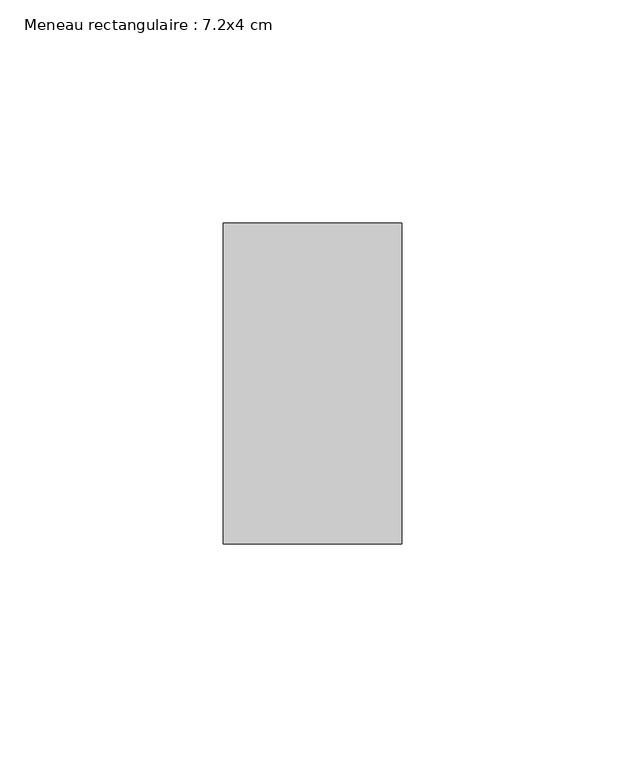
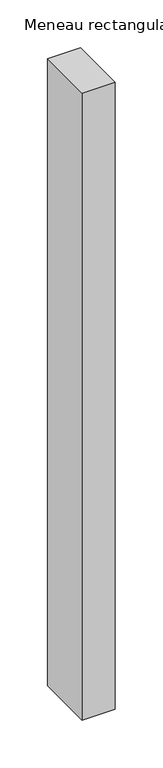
"""IFC4 building model written with IfcOpenShell, lengths in millimetres: member geometry, Meneau rectangulaire : 7.2x4 cm."""

import ifcopenshell
import ifcopenshell.guid

model = None  # the IFC model being written
_history = None  # IfcOwnerHistory: only IFC2X3 demands one
_inside = {}  # id of a spatial element -> (the spatial element, [elements in it])
_under = {}  # id of a project, library or spatial element -> (it, [spatial elements below it])
_declared = {}  # id of a project -> (the project, [libraries it declares])
_typed = {}  # id of a type object -> (the type object, [elements of that type])
_made_of = {}  # id of a material, layer set ... -> (it, [elements and type objects made of it])


def new_model(schema):
    """Start an empty IFC model of exactly this schema.

    Asked for "IFC4X3", IfcOpenShell would pick the latest addendum, in which some entities
    have other attributes; the version numbers below select the first issue.
    IFC2X3 requires an IfcOwnerHistory on every rooted entity: one is made here for all.
    """
    global model, _history
    if schema == "IFC4X3":
        model = ifcopenshell.file(schema_version=(4, 3, 0, 0))
    else:
        model = ifcopenshell.file(schema=schema)
    _inside.clear()
    _under.clear()
    _declared.clear()
    _typed.clear()
    _made_of.clear()
    _history = None
    if model.schema == "IFC2X3":
        org = make("IfcOrganization", Name="unknown")
        user = make(
            "IfcPersonAndOrganization",
            ThePerson=make("IfcPerson", FamilyName="unknown"),
            TheOrganization=org,
        )
        app = make(
            "IfcApplication",
            ApplicationDeveloper=org,
            Version="unknown",
            ApplicationFullName="unknown",
            ApplicationIdentifier="unknown",
        )
        _history = make(
            "IfcOwnerHistory",
            OwningUser=user,
            OwningApplication=app,
            ChangeAction="ADDED",
            CreationDate=0,
        )
    return model


def make(cls, **values):
    """One entity of the class cls with the attributes given. An attribute that is None is left unset."""
    return model.create_entity(
        cls, **{name: value for name, value in values.items() if value is not None}
    )


def rooted(cls, **values):
    """An entity with a GlobalId (a new one), such as an element, a storey or a relation."""
    return make(cls, GlobalId=ifcopenshell.guid.new(), OwnerHistory=_history, **values)


def si_unit(unit_type, name, prefix=None):
    """IfcSIUnit, for example si_unit("LENGTHUNIT", "METRE", prefix="MILLI")."""
    return make("IfcSIUnit", UnitType=unit_type, Prefix=prefix, Name=name)


def assignment(units):
    """IfcUnitAssignment: the units of a project."""
    return None if units is None else make("IfcUnitAssignment", Units=units)


def point(xyz):
    """IfcCartesianPoint."""
    return None if xyz is None else make("IfcCartesianPoint", Coordinates=xyz)


def direction(xyz):
    """IfcDirection."""
    return None if xyz is None else make("IfcDirection", DirectionRatios=xyz)


def frame(location, z_axis=None, x_axis=None):
    """IfcAxis2Placement3D, a coordinate frame: its origin and axes. An axis left out is left unset."""
    return make(
        "IfcAxis2Placement3D",
        Location=point(location),
        Axis=direction(z_axis),
        RefDirection=direction(x_axis),
    )


def origin():
    """The frame at (0, 0, 0) with its axes left unset."""
    return frame((0.0, 0.0, 0.0))


def place(relative_to, where):
    """IfcLocalPlacement: puts the frame where relative to a parent placement (None: the world)."""
    return make(
        "IfcLocalPlacement", PlacementRelTo=relative_to, RelativePlacement=where
    )


def context(
    kind, dimensions, precision=None, world=None, true_north=None, identifier=None
):
    """IfcGeometricRepresentationContext, for example the 3D "Model" context."""
    return make(
        "IfcGeometricRepresentationContext",
        ContextIdentifier=identifier,
        ContextType=kind,
        CoordinateSpaceDimension=dimensions,
        Precision=precision,
        WorldCoordinateSystem=world,
        TrueNorth=true_north,
    )


def project(units=None, contexts=None):
    """IfcProject with its units and contexts."""
    return rooted(
        "IfcProject",
        Name="project",
        RepresentationContexts=contexts,
        UnitsInContext=assignment(units),
    )


def spatial(cls, under=None, at=None, **own):
    """A site, building, storey or space (cls), placed at a placement, below another one or the project."""
    s = rooted(cls, ObjectPlacement=at, **own)
    if under is not None:
        _under.setdefault(under.id(), (under, []))[1].append(s)
    return s


def polyline(points):
    """IfcPolyline through the points."""
    return make("IfcPolyline", Points=[point(p) for p in points])


def outline(outer, holes=None, kind="AREA"):
    """IfcArbitraryClosedProfileDef: a profile drawn as a closed curve; with holes, ...WithVoids."""
    if holes is None:
        return make("IfcArbitraryClosedProfileDef", ProfileType=kind, OuterCurve=outer)
    return make(
        "IfcArbitraryProfileDefWithVoids",
        ProfileType=kind,
        OuterCurve=outer,
        InnerCurves=holes,
    )


def extrude(swept, where, along, depth):
    """IfcExtrudedAreaSolid: the profile swept, set in the frame where, extruded along a direction by depth."""
    return make(
        "IfcExtrudedAreaSolid",
        SweptArea=swept,
        Position=where,
        ExtrudedDirection=direction(along),
        Depth=depth,
    )


def shape(context_of_items, identifier, shape_type, items):
    """IfcShapeRepresentation: the items that make up one representation, for example the "Body"."""
    return make(
        "IfcShapeRepresentation",
        ContextOfItems=context_of_items,
        RepresentationIdentifier=identifier,
        RepresentationType=shape_type,
        Items=items,
    )


def source(mapping_origin, context_of_items, identifier, shape_type, items):
    """IfcRepresentationMap: a shape defined once, which mapped items show again and again."""
    return make(
        "IfcRepresentationMap",
        MappingOrigin=mapping_origin,
        MappedRepresentation=shape(context_of_items, identifier, shape_type, items),
    )


def transform(
    local_origin,
    x_axis=None,
    y_axis=None,
    z_axis=None,
    scale=None,
    scale2=None,
    scale3=None,
    uniform=True,
):
    """IfcCartesianTransformationOperator3D, or its non-uniform kind. x_axis, y_axis, z_axis: its Axis1, 2, 3."""
    if uniform:
        return make(
            "IfcCartesianTransformationOperator3D",
            Axis1=direction(x_axis),
            Axis2=direction(y_axis),
            LocalOrigin=point(local_origin),
            Scale=scale,
            Axis3=direction(z_axis),
        )
    return make(
        "IfcCartesianTransformationOperator3DnonUniform",
        Axis1=direction(x_axis),
        Axis2=direction(y_axis),
        LocalOrigin=point(local_origin),
        Scale=scale,
        Axis3=direction(z_axis),
        Scale2=scale2,
        Scale3=scale3,
    )


def mapped(mapping_source, mapping_target):
    """IfcMappedItem: shows the shape of a source again, moved by a transform."""
    return make(
        "IfcMappedItem", MappingSource=mapping_source, MappingTarget=mapping_target
    )


def made_of(thing, what):
    """Note that an element or type object is made of a material, layer set ...; save() writes the relation."""
    if what is not None:
        _made_of.setdefault(what.id(), (what, []))[1].append(thing)
    return thing


def element(
    cls,
    number,
    at=None,
    inside=None,
    cuts=None,
    type_object=None,
    material=None,
    context=None,
    identifier="Body",
    shape_type=None,
    held_by="IfcProductDefinitionShape",
    body=None,
    shapes=None,
    **own,
):
    """One element of the class cls, such as IfcWall. Its Tag is "e" and its number.

    at: its placement. inside: the storey or other place that contains it. cuts: it is an
    opening in that element (IfcRelVoidsElement). A single representation is given by context,
    identifier, shape_type and body (its items); several are given by shapes. held_by: the class
    of the entity that holds the representations. save() writes the other relations.
    """
    e = rooted(cls, Tag="e%d" % number, ObjectPlacement=at, **own)
    if body is not None:
        shapes = [shape(context, identifier, shape_type, body)]
    if shapes is not None:
        e.Representation = make(held_by, Representations=shapes)
    if inside is not None:
        _inside.setdefault(inside.id(), (inside, []))[1].append(e)
    if cuts is not None:
        rooted(
            "IfcRelVoidsElement", RelatingBuildingElement=cuts, RelatedOpeningElement=e
        )
    if type_object is not None:
        _typed.setdefault(type_object.id(), (type_object, []))[1].append(e)
    return made_of(e, material)


def aggregate(whole, parts):
    """IfcRelAggregates: a whole, such as a stair, and the parts it consists of."""
    return rooted("IfcRelAggregates", RelatingObject=whole, RelatedObjects=parts)


def save(model, path):
    """Write the relations noted so far, then the file.

    IfcRelAggregates (storeys below a building ...), IfcRelContainedInSpatialStructure (elements
    in a storey), IfcRelDefinesByType, IfcRelAssociatesMaterial and IfcRelDeclares: one each for
    every whole, place, type object, material and project.
    """
    for whole, parts in _under.values():
        aggregate(whole, parts)
    for where, things in _inside.values():
        rooted(
            "IfcRelContainedInSpatialStructure",
            RelatedElements=things,
            RelatingStructure=where,
        )
    for kind, things in _typed.values():
        rooted("IfcRelDefinesByType", RelatedObjects=things, RelatingType=kind)
    for what, things in _made_of.values():
        rooted("IfcRelAssociatesMaterial", RelatedObjects=things, RelatingMaterial=what)
    for by, libraries in _declared.values():
        rooted("IfcRelDeclares", RelatingContext=by, RelatedDefinitions=libraries)
    model.write(path)


def meneau_rectangulaire_7_2x4_cm_f788d2fa(model_context):
    return source(origin(), model_context, "Body", "SweptSolid", [
        extrude(outline(polyline([(20.0, 36.0), (20.0, -36.0), (-20.0, -36.0), (-20.0, 36.0), (20.0, 36.0)])), frame((0.0, 0.0, -800.0), z_axis=(0.0, 0.0, 1.0), x_axis=(1.0, 0.0, 0.0)), (0.0, 0.0, 1.0), 800.0),
    ])


if __name__ == "__main__":
    model = new_model("IFC4")
    model_context = context("Model", 3, world=origin())
    ifc_project = project(units=[si_unit("LENGTHUNIT", "METRE", prefix="MILLI")], contexts=[model_context])
    site = spatial("IfcSite", under=ifc_project)
    building = spatial("IfcBuilding", under=site)
    placement = place(None, origin())
    meneau_rectangulaire_7_2x4_cm_shape = meneau_rectangulaire_7_2x4_cm_f788d2fa(model_context)
    element("IfcMember", 1, ObjectType="Meneau rectangulaire : 7.2x4 cm", at=placement, inside=building, context=model_context, shape_type="MappedRepresentation", body=[
        mapped(meneau_rectangulaire_7_2x4_cm_shape, transform((0.0, 0.0, 0.0), x_axis=(1.0, 0.0, 0.0), y_axis=(0.0, 1.0, 0.0), z_axis=(0.0, 0.0, 1.0))),
    ])
    save(model, "model.ifc")
